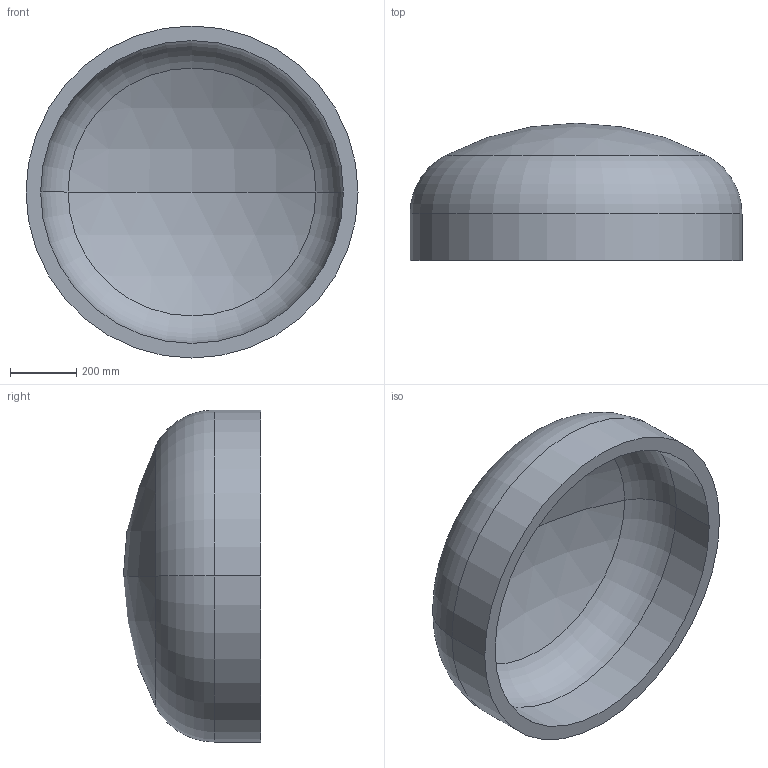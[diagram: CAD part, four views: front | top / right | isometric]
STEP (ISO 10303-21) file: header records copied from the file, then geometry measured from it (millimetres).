
FILE_DESCRIPTION (( 'STEP AP203' ), '1' );
FILE_NAME ('DIN 28013 Korbbogenform_-_Boden DIN 28013 - 1000 x 140 - I - s=44.step', '2016-07-01T08:49:31', ( '' ), ( '' ), 'SwSTEP 2.0', 'SolidWorks 2013', '' );
FILE_SCHEMA (( 'CONFIG_CONTROL_DESIGN' ));
Length unit declared in the file: millimetre
Products named in the file (1): DIN 28013 Korbbogenform_-_Boden DIN 28013 - 1000 x 140 - I - s=44
Bounding box: 1000 x 413.54 x 1000 mm (x, y, z)
Volume: 63778426 mm3; surface area: 3035221.4 mm2
Topology: 1 solids, 1 shells, 13 faces, 24 edges, 14 vertices
Faces by surface type: torus 4, cylinder 4, sphere 4, plane 1
Entity records: 407 total; most frequent: DIRECTION 72, CARTESIAN_POINT 52, ORIENTED_EDGE 48, AXIS2_PLACEMENT_3D 34, EDGE_CURVE 24, CIRCLE 20, VERTEX_POINT 14, EDGE_LOOP 14
